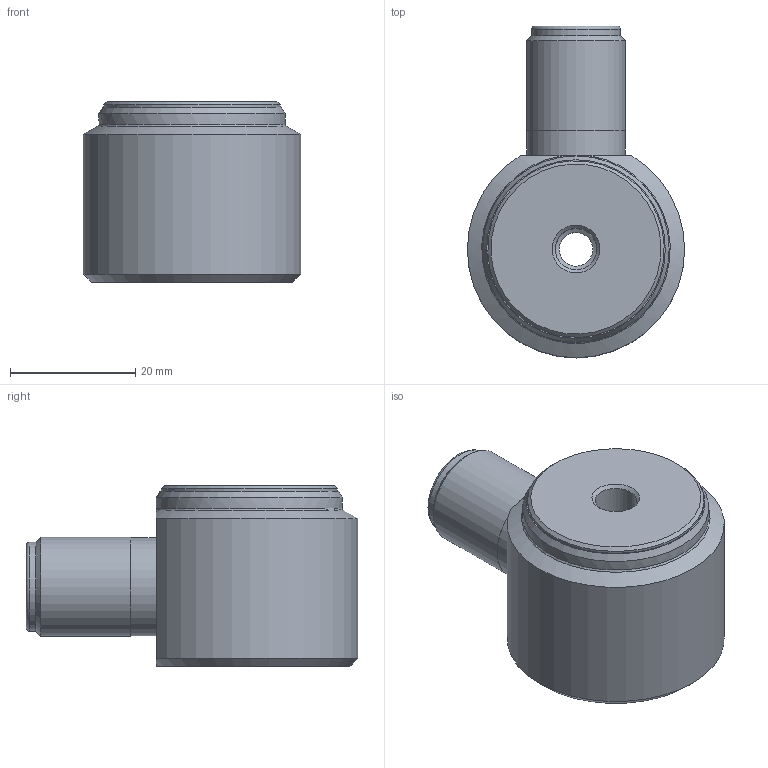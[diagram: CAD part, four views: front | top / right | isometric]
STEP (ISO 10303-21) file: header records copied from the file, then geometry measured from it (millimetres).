
FILE_DESCRIPTION(/* description */ (''),/* implementation_level */ '2;1');
FILE_NAME(/* name */ 'C:\Users\jfriend\Desktop\----Step files\Meredith Christman\625B01\625B01.stp',/* time_stamp */ '2019-12-11T10:36:39-05:00',/* author */ ('jfriend'),/* organization */ (''),/* preprocessor_version */ 'ST-DEVELOPER v17',/* originating_system */ 'Autodesk Inventor 2019',/* authorisation */ '');
FILE_SCHEMA (('AUTOMOTIVE_DESIGN { 1 0 10303 214 3 1 1 }'));
Length unit declared in the file: inch
Products named in the file (1): 625B01 
Bounding box: 34.67 x 52.95 x 28.83 mm (x, y, z)
Volume: 26695.3 mm3; surface area: 6842.5 mm2
Topology: 1 solids, 1 shells, 55 faces, 141 edges, 94 vertices
Faces by surface type: cylinder 20, cone 13, plane 13, torus 5, bspline 2, sphere 2
Full cylindrical faces by diameter (mm): 0.762 x1, 1.016 x2, 1.549 x2, 3.188 x2, 5.359 x1, 6.604 x1, 11.684 x1, 14.148 x1, 15.697 x1, 15.748 x1, 28.169 x1, 29.718 x1
Entity records: 1920 total; most frequent: CARTESIAN_POINT 429, DIRECTION 315, ORIENTED_EDGE 270, AXIS2_PLACEMENT_3D 138, EDGE_CURVE 135, VERTEX_POINT 94, CIRCLE 84, EDGE_LOOP 71
